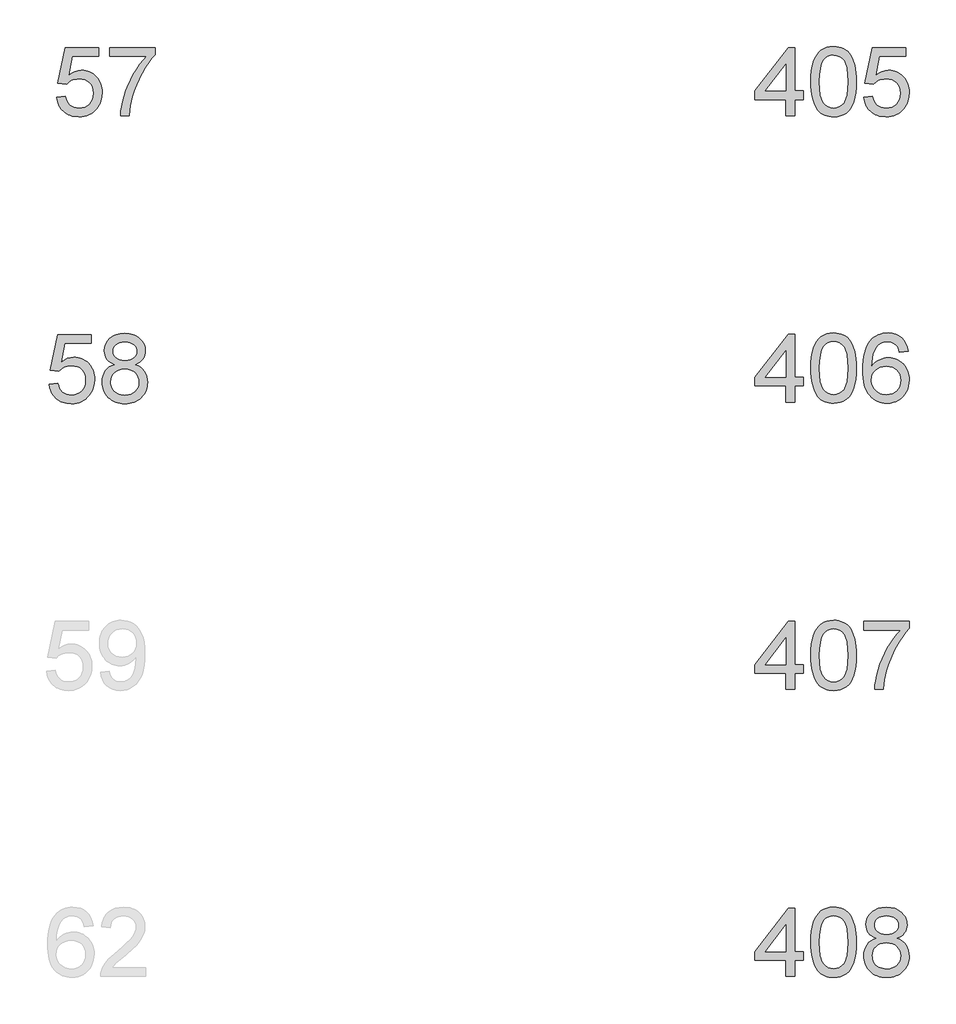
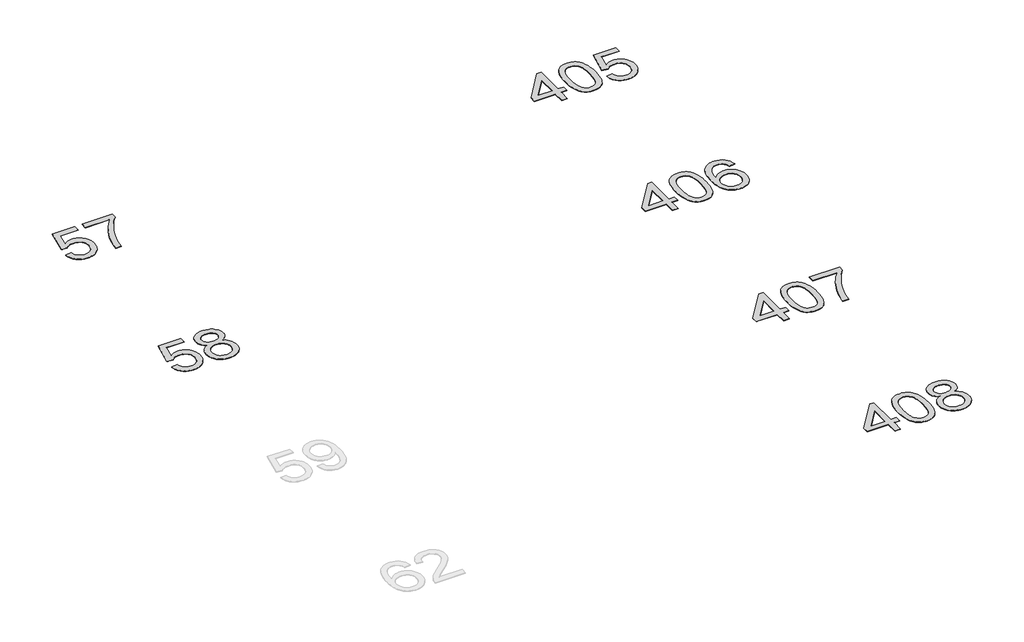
# One storey, part 4 of 19: 6 proxies.
"""IFC4 building model written with IfcOpenShell, lengths in millimetres."""

from ifc_helpers import new_model, si_unit, origin, origin_with_axes, place, context, project, spatial, polyline, outline, extrude, element, save

model = new_model("IFC4")

# Units and contexts
model_context = context("Model", 3, world=origin())
ifc_project = project(units=[si_unit("LENGTHUNIT", "METRE", prefix="MILLI")], contexts=[model_context])

# Site, building, storey
site = spatial("IfcSite", under=ifc_project)
building = spatial("IfcBuilding", under=site)
storey = spatial("IfcBuildingStorey", under=building, Name="Marelli - Linha ACTIVE - Planta Baixa", Elevation=0.0)

# Proxies
placement = place(None, origin())
element("IfcBuildingElementProxy", 1, Name="1200mm Arial", ObjectType="1200mm Arial", at=placement, inside=storey, context=model_context, shape_type="SweptSolid", body=[
    extrude(outline(polyline([(-25134.0424838, -128668.6139517), (-24983.3580186, -128649.7783935), (-24972.1008295, -128698.2192552), (-24955.6932926, -128740.2405761), (-24934.1354076, -128775.8423562), (-24907.4271748, -128805.0245955), (-24875.6237763, -128827.7505057), (-24838.7803945, -128843.9832988), (-24796.8970293, -128853.7229746), (-24749.9736809, -128856.9695332), (-24692.5840896, -128852.4537817), (-24641.9635271, -128838.9065272), (-24598.1119932, -128816.3277698), (-24561.0294881, -128784.7175093), (-24531.5437462, -128745.6392444), (-24510.482502, -128700.6564734), (-24497.8457555, -128649.7691965), (-24493.6335066, -128592.9774135), (-24497.579041, -128539.3034304), (-24509.4156442, -128491.5891356), (-24529.1433162, -128449.8345291), (-24556.762057, -128414.039611), (-24592.3638371, -128385.3264213), (-24636.040627, -128364.817), (-24687.7924266, -128352.5113473), (-24747.6192361, -128348.4094631), (-24785.9065547, -128350.0465379), (-24820.7173885, -128354.9577626), (-24852.0517375, -128363.143137), (-24879.9096016, -128374.6026611), (-24927.1824379, -128404.6954083), (-24964.5224604, -128442.5872538), (-25115.2069257, -128423.7516957), (-24983.3580186, -127802.1782766), (-24399.4557159, -127802.1782766), (-24399.4557159, -127952.8627418), (-24861.5155018, -127952.8627418), (-24925.9684273, -128284.8394543), (-24872.7910849, -128246.7268796), (-24818.3261556, -128219.503612), (-24762.5736392, -128203.1696514), (-24705.5335358, -128197.7249978), (-24668.094645, -128199.4126565), (-24632.1502749, -128204.4756325), (-24597.7004253, -128212.9139257), (-24564.7450963, -128224.7275363), (-24533.2842879, -128239.9164642), (-24503.3180001, -128258.4807093), (-24474.846233, -128280.4202718), (-24447.8689864, -128305.7351516), (-24423.2783743, -128333.7033803), (-24401.9665105, -128363.6029895), (-24383.9333949, -128395.4339791), (-24369.1790276, -128429.1963492), (-24357.7034087, -128464.8900998), (-24349.506538, -128502.5152308), (-24344.5884155, -128542.0717424), (-24342.9490414, -128583.5596344), (-24348.8535474, -128661.6241938), (-24356.2341799, -128698.6147284), (-24366.5670655, -128734.2440996), (-24379.852204, -128768.5123075), (-24396.0895956, -128801.4193519), (-24415.2792402, -128832.965233), (-24437.4211378, -128863.1499507), (-24467.4219145, -128897.0180869), (-24500.0346533, -128926.3704716), (-24535.2593544, -128951.2071048), (-24573.0960176, -128971.5279865), (-24613.5446429, -128987.3331167), (-24656.6052305, -128998.6224954), (-24702.2777802, -129005.3961227), (-24750.562292, -129007.6539984), (-24828.3233488, -129001.8506599), (-24864.3826821, -128994.5964869), (-24898.5612187, -128984.4406445), (-24930.8589586, -128971.383133), (-24961.2759018, -128955.4239522), (-24989.8120483, -128936.5631021), (-25016.4673982, -128914.8005828), (-25040.8050914, -128890.6422321), (-25062.3882682, -128864.5938875), (-25081.2169286, -128836.6555493), (-25097.2910725, -128806.8272173), (-25110.6107, -128775.1088915), (-25121.175811, -128741.500572), (-25134.0424838, -128668.6139517)])), origin_with_axes(), (0.0, 0.0, 1.0), 10.0),
    extrude(outline(polyline([(-24211.1001343, -127952.8627418), (-24211.1001343, -127802.1782766), (-23420.0066919, -127802.1782766), (-23420.0066919, -127924.0207934), (-23476.5225634, -127990.5246611), (-23532.7625234, -128066.7222194), (-23588.7265719, -128152.6134682), (-23644.414709, -128248.1984076), (-23696.8103021, -128349.3383651), (-23742.8967191, -128451.8946683), (-23782.6739598, -128555.8673172), (-23816.1420243, -128661.2563118), (-23836.0812284, -128737.7941609), (-23852.047307, -128817.9004653), (-23864.0402601, -128901.5752251), (-23872.0600876, -128988.8184403), (-24022.7445528, -128988.8184403), (-24018.0080721, -128914.8189769), (-24006.4473804, -128833.4986619), (-23988.0624777, -128744.8574952), (-23962.853364, -128648.8954767), (-23931.1143448, -128550.1651463), (-23893.1397259, -128453.2190435), (-23848.9295071, -128358.0571684), (-23798.4836885, -128264.679521), (-23744.0739414, -128175.8268221), (-23687.9719372, -128094.2397926), (-23630.1776757, -128019.9184325), (-23570.6911571, -127952.8627418), (-24211.1001343, -127952.8627418)])), origin_with_axes(), (0.0, 0.0, 1.0), 10.0),
])
element("IfcBuildingElementProxy", 2, Name="1200mm Arial", ObjectType="1200mm Arial", at=placement, inside=storey, context=model_context, shape_type="SweptSolid", body=[
    extrude(outline(polyline([(-25265.8913909, -133668.6139517), (-25115.2069257, -133649.7783935), (-25103.9497366, -133698.2192552), (-25087.5421996, -133740.2405761), (-25065.9843147, -133775.8423562), (-25039.2760819, -133805.0245955), (-25007.4726834, -133827.7505057), (-24970.6293016, -133843.9832988), (-24928.7459364, -133853.7229746), (-24881.8225879, -133856.9695332), (-24824.4329967, -133852.4537817), (-24773.8124341, -133838.9065272), (-24729.9609003, -133816.3277698), (-24692.8783952, -133784.7175093), (-24663.3926533, -133745.6392444), (-24642.3314091, -133700.6564734), (-24629.6946625, -133649.7691965), (-24625.4824137, -133592.9774135), (-24629.4279481, -133539.3034304), (-24641.2645513, -133491.5891356), (-24660.9922233, -133449.8345291), (-24688.6109641, -133414.039611), (-24724.2127441, -133385.3264213), (-24767.889534, -133364.817), (-24819.6413337, -133352.5113473), (-24879.4681432, -133348.4094631), (-24917.7554618, -133350.0465379), (-24952.5662956, -133354.9577626), (-24983.9006445, -133363.143137), (-25011.7585086, -133374.6026611), (-25059.031345, -133404.6954083), (-25096.3713675, -133442.5872538), (-25247.0558327, -133423.7516957), (-25115.2069257, -132802.1782766), (-24531.3046229, -132802.1782766), (-24531.3046229, -132952.8627418), (-24993.3644089, -132952.8627418), (-25057.8173344, -133284.8394543), (-25004.639992, -133246.7268796), (-24950.1750626, -133219.503612), (-24894.4225463, -133203.1696514), (-24837.3824429, -133197.7249978), (-24799.9435521, -133199.4126565), (-24763.9991819, -133204.4756325), (-24729.5493323, -133212.9139257), (-24696.5940034, -133224.7275363), (-24665.133195, -133239.9164642), (-24635.1669072, -133258.4807093), (-24606.69514, -133280.4202718), (-24579.7178935, -133305.7351516), (-24555.1272814, -133333.7033803), (-24533.8154175, -133363.6029895), (-24515.782302, -133395.4339791), (-24501.0279347, -133429.1963492), (-24489.5523157, -133464.8900998), (-24481.355445, -133502.5152308), (-24476.4373226, -133542.0717424), (-24474.7979485, -133583.5596344), (-24480.7024545, -133661.6241938), (-24488.083087, -133698.6147284), (-24498.4159726, -133734.2440996), (-24511.7011111, -133768.5123075), (-24527.9385027, -133801.4193519), (-24547.1281472, -133832.965233), (-24569.2700448, -133863.1499507), (-24599.2708215, -133897.0180869), (-24631.8835604, -133926.3704716), (-24667.1082614, -133951.2071048), (-24704.9449246, -133971.5279865), (-24745.39355, -133987.3331167), (-24788.4541376, -133998.6224954), (-24834.1266873, -134005.3961227), (-24882.4111991, -134007.6539984), (-24960.1722559, -134001.8506599), (-24996.2315892, -133994.5964869), (-25030.4101258, -133984.4406445), (-25062.7078657, -133971.383133), (-25093.1248089, -133955.4239522), (-25121.6609554, -133936.5631021), (-25148.3163052, -133914.8005828), (-25172.6539985, -133890.6422321), (-25194.2371753, -133864.5938875), (-25213.0658356, -133836.6555493), (-25229.1399796, -133806.8272173), (-25242.4596071, -133775.1088915), (-25253.0247181, -133741.500572), (-25265.8913909, -133668.6139517)])), origin_with_axes(), (0.0, 0.0, 1.0), 10.0),
    extrude(outline(polyline([(-24123.3970667, -133324.8650154), (-24166.7427628, -133306.7652212), (-24204.0735882, -133285.1337599), (-24235.3895431, -133259.9706314), (-24260.6906273, -133231.2758358), (-24280.1975701, -133199.3252845), (-24294.1311006, -133164.3948891), (-24302.491219, -133126.4846495), (-24305.2779251, -133085.5945657), (-24299.2078722, -133024.1398784), (-24291.620306, -132995.3301197), (-24280.9977134, -132967.7987509), (-24267.3400943, -132941.545772), (-24250.6474488, -132916.571183), (-24208.1570784, -132870.4571749), (-24182.8697897, -132850.0397242), (-24155.5683471, -132832.3446002), (-24126.2527507, -132817.371803), (-24094.9230002, -132805.1213326), (-24026.2210376, -132788.787372), (-23949.4624594, -132783.3427185), (-23872.3359991, -132788.9161307), (-23803.1190017, -132805.6363674), (-23771.4765516, -132818.1765449), (-23741.8114672, -132833.5034285), (-23714.1237485, -132851.6170183), (-23688.4133956, -132872.5173141), (-23645.1504729, -132919.5326331), (-23628.1543248, -132944.8613085), (-23614.2483853, -132971.4039944), (-23603.4326547, -132999.1606909), (-23595.7071328, -133028.1313981), (-23591.0718197, -133058.3161158), (-23589.5267153, -133089.7148441), (-23592.2766332, -133129.160991), (-23600.5263869, -133165.9767817), (-23614.2759765, -133200.1622161), (-23633.5254019, -133231.7172942), (-23658.3666336, -133260.2189518), (-23688.8916422, -133285.2441245), (-23725.1004275, -133306.7928124), (-23766.9929897, -133324.8650154), (-23717.4668761, -133345.9354566), (-23674.2499388, -133372.6528865), (-23637.3421776, -133405.0173051), (-23606.7435926, -133443.0287122), (-23582.7300954, -133485.8409794), (-23565.5775974, -133532.607978), (-23555.2860986, -133583.3297081), (-23551.855599, -133638.0061697), (-23553.5570532, -133676.3670647), (-23558.6614159, -133713.1644613), (-23567.168687, -133748.3983594), (-23579.0788666, -133782.068759), (-23594.3919547, -133814.1756601), (-23613.1079512, -133844.7190628), (-23635.2268561, -133873.6989669), (-23660.7486695, -133901.1153726), (-23689.047992, -133926.085363), (-23719.4994242, -133947.7260214), (-23752.102966, -133966.0373477), (-23786.8586175, -133981.019342), (-23823.7663787, -133992.6720042), (-23862.8262495, -134000.9953343), (-23904.03823, -134005.9893324), (-23947.4023202, -134007.6539984), (-23990.7664104, -134005.9824346), (-24031.9783909, -134000.9677432), (-24071.0382617, -133992.6099241), (-24107.9460229, -133980.9089774), (-24142.7016744, -133965.864903), (-24175.3052162, -133947.4777011), (-24205.7566483, -133925.7473715), (-24234.0559708, -133900.6739142), (-24259.5777842, -133873.1034579), (-24281.6966892, -133843.8821312), (-24300.4126857, -133813.009934), (-24315.7257738, -133780.4868664), (-24327.6359533, -133746.3129283), (-24336.1432245, -133710.4881198), (-24341.2475872, -133673.0124408), (-24342.9490414, -133633.8858913), (-24339.380586, -133576.7170293), (-24328.67522, -133524.4042096), (-24310.8329432, -133476.9474322), (-24285.8537557, -133434.3466971), (-24254.2894806, -133397.3745566), (-24216.6919406, -133366.8035628), (-24173.061136, -133342.6337157), (-24123.3970667, -133324.8650154)]), holes=[polyline([(-24154.5934599, -133090.0091497), (-24151.2549308, -133124.553269), (-24141.2393434, -133155.7864504), (-24124.5466979, -133183.7086938), (-24101.1769942, -133208.3199993), (-24071.4245378, -133228.4063562), (-24035.5836344, -133242.753754), (-23993.654284, -133251.3621927), (-23945.6364866, -133254.2316723), (-23898.8051086, -133251.3805868), (-23857.7862662, -133242.8273304), (-23822.5799592, -133228.5719031), (-23793.1861878, -133208.6143049), (-23770.0096221, -133184.5180342), (-23753.4549323, -133157.8465896), (-23743.5221185, -133128.5999709), (-23740.2111805, -133096.7781784), (-23743.6324831, -133063.714784), (-23753.8963907, -133033.3921106), (-23771.0029035, -133005.810158), (-23794.9520214, -132980.9689263), (-23825.0079804, -132960.4319139), (-23860.4350165, -132945.7626193), (-23901.2331298, -132936.9610426), (-23947.4023202, -132934.0271837), (-23993.9301955, -132936.8966633), (-24034.9214468, -132945.5051019), (-24070.3760741, -132959.8524998), (-24100.2940774, -132979.9388567), (-24124.0500572, -133004.0351274), (-24141.0186142, -133030.4122664), (-24151.1997485, -133059.0702739), (-24154.5934599, -133090.0091497)]), polyline([(-24192.2645762, -133628.5883906), (-24190.6918806, -133657.6418712), (-24185.9737941, -133686.2354992), (-24167.1014477, -133742.0431979), (-24152.1010593, -133767.9328933), (-24132.2630228, -133790.7139859), (-24107.5873379, -133810.3864756), (-24078.0740049, -133826.9503624), (-24045.8843303, -133840.0837496), (-24013.1796209, -133849.4647405), (-23979.9598768, -133855.093335), (-23946.2250978, -133856.9695332), (-23891.7417743, -133853.0239988), (-23843.6595975, -133841.1873956), (-23801.9785675, -133821.4597236), (-23766.6986841, -133793.8409828), (-23738.6292879, -133760.133795), (-23718.5797192, -133722.140782), (-23706.5499779, -133679.8619437), (-23702.5400642, -133633.2972801), (-23706.6787366, -133585.9876555), (-23719.094754, -133542.9454621), (-23739.7881162, -133504.1706998), (-23768.7588233, -133469.6633687), (-23804.9951998, -133441.336455), (-23847.4855703, -133421.1029453), (-23896.2299347, -133408.9628395), (-23951.2282929, -133404.9161375), (-24004.9114731, -133408.9076572), (-24052.3590534, -133420.8822161), (-24093.5710339, -133440.8398144), (-24128.5474146, -133468.7804519), (-24156.4236728, -133502.7175659), (-24176.3352858, -133540.6645937), (-24188.2822536, -133582.6215353), (-24192.2645762, -133628.5883906)])]), origin_with_axes(), (0.0, 0.0, 1.0), 10.0),
])
element("IfcBuildingElementProxy", 3, Name="1200mm Arial", ObjectType="1200mm Arial", at=placement, inside=storey, context=model_context, shape_type="SweptSolid", body=[
    extrude(outline(polyline([(-12417.4335651, -128988.8184403), (-12417.4335651, -128706.285068), (-12963.6647515, -128706.285068), (-12963.6647515, -128555.6006027), (-12379.7624488, -127802.1782766), (-12266.7490998, -127802.1782766), (-12266.7490998, -128555.6006027), (-12116.0646346, -128555.6006027), (-12116.0646346, -128706.285068), (-12266.7490998, -128706.285068), (-12266.7490998, -128988.8184403), (-12417.4335651, -128988.8184403)]), holes=[polyline([(-12417.4335651, -128555.6006027), (-12417.4335651, -128090.0091497), (-12778.2522259, -128555.6006027), (-12417.4335651, -128555.6006027)])]), origin_with_axes(), (0.0, 0.0, 1.0), 10.0),
    extrude(outline(polyline([(-11984.2157275, -128395.792664), (-11981.4474155, -128294.4319773), (-11973.1424795, -128202.8385576), (-11959.3009194, -128121.0124048), (-11939.9227353, -128048.953519), (-11915.0907006, -127986.073289), (-11884.8875888, -127931.7831035), (-11849.3133999, -127886.0829627), (-11808.3681338, -127848.9728664), (-11761.9138349, -127820.2596767), (-11709.8125473, -127799.7502555), (-11652.0642711, -127787.4446027), (-11588.6690063, -127783.3427185), (-11541.028288, -127785.7707396), (-11495.8155907, -127793.0548031), (-11453.0309147, -127805.194909), (-11412.6742598, -127822.1910572), (-11375.7205134, -127843.7581391), (-11343.1445627, -127869.6110463), (-11314.9464078, -127899.7497788), (-11291.1260486, -127934.1743365), (-11270.4878687, -127972.7467637), (-11251.8362515, -128015.3291046), (-11220.4927056, -128112.5235278), (-11208.5181466, -128169.6831928), (-11199.9648902, -128235.9479371), (-11194.8329364, -128311.3177609), (-11193.1222851, -128395.792664), (-11195.863006, -128496.5095573), (-11204.0851686, -128587.6431245), (-11217.7887729, -128669.1933658), (-11236.9738189, -128741.1602811), (-11261.6127156, -128804.0681023), (-11291.6778716, -128858.4410612), (-11327.1692871, -128904.2791578), (-11368.086962, -128941.5823921), (-11414.5964433, -128970.4887199), (-11466.8632777, -128991.1360968), (-11524.8874654, -129003.524523), (-11588.6690063, -129007.6539984), (-11631.3433178, -129005.8605737), (-11671.6631844, -129000.4802995), (-11709.6286063, -128991.5131759), (-11745.2395835, -128978.9592028), (-11778.4961158, -128962.8183803), (-11809.3982034, -128943.0907083), (-11837.9458463, -128919.7761868), (-11864.1390443, -128892.8748159), (-11892.2820169, -128850.2786794), (-11916.6725932, -128802.0999336), (-11937.3107732, -128748.3385785), (-11954.1965567, -128688.9946142), (-11967.329944, -128624.0680406), (-11976.7109348, -128553.5588577), (-11982.3395294, -128477.4670655), (-11984.2157275, -128395.792664)]), holes=[polyline([(-11833.5312623, -128395.4983584), (-11829.1166784, -128526.4919399), (-11815.8729265, -128632.5247279), (-11805.9401127, -128676.1808245), (-11793.8000068, -128713.5967226), (-11779.452609, -128744.7724225), (-11762.8979192, -128769.7079239), (-11725.5211085, -128807.884878), (-11684.0240195, -128835.1541309), (-11638.4066521, -128851.5156826), (-11588.6690063, -128856.9695332), (-11538.9313606, -128851.4972885), (-11493.3139932, -128835.0805545), (-11451.8169041, -128807.7193311), (-11414.4400934, -128769.4136183), (-11397.8854036, -128744.418336), (-11383.5380058, -128713.2104465), (-11371.3979, -128675.7899498), (-11361.4650861, -128632.1568459), (-11348.2213343, -128526.2528166), (-11343.8067503, -128395.4983584), (-11348.0741815, -128267.9720648), (-11360.8764749, -128163.8062779), (-11370.478195, -128120.4835744), (-11382.2136306, -128083.0009976), (-11396.0827819, -128051.3585475), (-11412.0856486, -128025.5562241), (-11448.83706, -127985.5122689), (-11490.8123956, -127956.9094438), (-11538.0116556, -127939.7477487), (-11590.4348399, -127934.0271837), (-11639.9149683, -127939.067167), (-11684.7597835, -127954.187117), (-11724.9692855, -127979.3870337), (-11760.5434745, -128014.666917), (-11777.6499872, -128043.2145599), (-11792.4756317, -128077.2068562), (-11805.0204077, -128116.6438061), (-11815.2843154, -128161.5254095), (-11828.9695256, -128267.6225769), (-11833.5312623, -128395.4983584)])]), origin_with_axes(), (0.0, 0.0, 1.0), 10.0),
    extrude(outline(polyline([(-11061.273378, -128668.6139517), (-10910.5889128, -128649.7783935), (-10899.3317238, -128698.2192552), (-10882.9241868, -128740.2405761), (-10861.3663019, -128775.8423562), (-10834.658069, -128805.0245955), (-10802.8546705, -128827.7505057), (-10766.0112887, -128843.9832988), (-10724.1279236, -128853.7229746), (-10677.2045751, -128856.9695332), (-10619.8149838, -128852.4537817), (-10569.1944213, -128838.9065272), (-10525.3428875, -128816.3277698), (-10488.2603824, -128784.7175093), (-10458.7746404, -128745.6392444), (-10437.7133962, -128700.6564734), (-10425.0766497, -128649.7691965), (-10420.8644008, -128592.9774135), (-10424.8099352, -128539.3034304), (-10436.6465384, -128491.5891356), (-10456.3742104, -128449.8345291), (-10483.9929512, -128414.039611), (-10519.5947313, -128385.3264213), (-10563.2715212, -128364.817), (-10615.0233208, -128352.5113473), (-10674.8501303, -128348.4094631), (-10713.137449, -128350.0465379), (-10747.9482827, -128354.9577626), (-10779.2826317, -128363.143137), (-10807.1404958, -128374.6026611), (-10854.4133322, -128404.6954083), (-10891.7533547, -128442.5872538), (-11042.4378199, -128423.7516957), (-10910.5889128, -127802.1782766), (-10326.6866101, -127802.1782766), (-10326.6866101, -127952.8627418), (-10788.746396, -127952.8627418), (-10853.1993216, -128284.8394543), (-10800.0219792, -128246.7268796), (-10745.5570498, -128219.503612), (-10689.8045334, -128203.1696514), (-10632.7644301, -128197.7249978), (-10595.3255393, -128199.4126565), (-10559.3811691, -128204.4756325), (-10524.9313195, -128212.9139257), (-10491.9759905, -128224.7275363), (-10460.5151821, -128239.9164642), (-10430.5488944, -128258.4807093), (-10402.0771272, -128280.4202718), (-10375.0998806, -128305.7351516), (-10350.5092685, -128333.7033803), (-10329.1974047, -128363.6029895), (-10311.1642891, -128395.4339791), (-10296.4099219, -128429.1963492), (-10284.9343029, -128464.8900998), (-10276.7374322, -128502.5152308), (-10271.8193098, -128542.0717424), (-10270.1799356, -128583.5596344), (-10276.0844416, -128661.6241938), (-10283.4650742, -128698.6147284), (-10293.7979597, -128734.2440996), (-10307.0830983, -128768.5123075), (-10323.3204898, -128801.4193519), (-10342.5101344, -128832.965233), (-10364.652032, -128863.1499507), (-10394.6528087, -128897.0180869), (-10427.2655476, -128926.3704716), (-10462.4902486, -128951.2071048), (-10500.3269118, -128971.5279865), (-10540.7755372, -128987.3331167), (-10583.8361247, -128998.6224954), (-10629.5086744, -129005.3961227), (-10677.7931863, -129007.6539984), (-10755.554243, -129001.8506599), (-10791.6135763, -128994.5964869), (-10825.7921129, -128984.4406445), (-10858.0898528, -128971.383133), (-10888.5067961, -128955.4239522), (-10917.0429426, -128936.5631021), (-10943.6982924, -128914.8005828), (-10968.0359856, -128890.6422321), (-10989.6191624, -128864.5938875), (-11008.4478228, -128836.6555493), (-11024.5219667, -128806.8272173), (-11037.8415942, -128775.1088915), (-11048.4067053, -128741.500572), (-11061.273378, -128668.6139517)])), origin_with_axes(), (0.0, 0.0, 1.0), 10.0),
])
element("IfcBuildingElementProxy", 4, Name="1200mm Arial", ObjectType="1200mm Arial", at=placement, inside=storey, context=model_context, shape_type="SweptSolid", body=[
    extrude(outline(polyline([(-12417.4335651, -133980.5663201), (-12417.4335651, -133698.0329478), (-12963.6647515, -133698.0329478), (-12963.6647515, -133547.3484825), (-12379.7624488, -132793.9261564), (-12266.7490998, -132793.9261564), (-12266.7490998, -133547.3484825), (-12116.0646346, -133547.3484825), (-12116.0646346, -133698.0329478), (-12266.7490998, -133698.0329478), (-12266.7490998, -133980.5663201), (-12417.4335651, -133980.5663201)]), holes=[polyline([(-12417.4335651, -133547.3484825), (-12417.4335651, -133081.7570295), (-12778.2522259, -133547.3484825), (-12417.4335651, -133547.3484825)])]), origin_with_axes(), (0.0, 0.0, 1.0), 10.0),
    extrude(outline(polyline([(-11984.2157275, -133387.5405438), (-11981.4474155, -133286.1798571), (-11973.1424795, -133194.5864374), (-11959.3009194, -133112.7602846), (-11939.9227353, -133040.7013988), (-11915.0907006, -132977.8211688), (-11884.8875888, -132923.5309833), (-11849.3133999, -132877.8308425), (-11808.3681338, -132840.7207462), (-11761.9138349, -132812.0075565), (-11709.8125473, -132791.4981353), (-11652.0642711, -132779.1924825), (-11588.6690063, -132775.0905983), (-11541.028288, -132777.5186194), (-11495.8155907, -132784.8026829), (-11453.0309147, -132796.9427888), (-11412.6742598, -132813.938937), (-11375.7205134, -132835.5060189), (-11343.1445627, -132861.3589261), (-11314.9464078, -132891.4976586), (-11291.1260486, -132925.9222163), (-11270.4878687, -132964.4946435), (-11251.8362515, -133007.0769844), (-11220.4927056, -133104.2714076), (-11208.5181466, -133161.4310726), (-11199.9648902, -133227.6958169), (-11194.8329364, -133303.0656407), (-11193.1222851, -133387.5405438), (-11195.863006, -133488.2574371), (-11204.0851686, -133579.3910043), (-11217.7887729, -133660.9412456), (-11236.9738189, -133732.9081609), (-11261.6127156, -133795.8159821), (-11291.6778716, -133850.188941), (-11327.1692871, -133896.0270376), (-11368.086962, -133933.3302719), (-11414.5964433, -133962.2365997), (-11466.8632777, -133982.8839766), (-11524.8874654, -133995.2724028), (-11588.6690063, -133999.4018782), (-11631.3433178, -133997.6084535), (-11671.6631844, -133992.2281793), (-11709.6286063, -133983.2610557), (-11745.2395835, -133970.7070826), (-11778.4961158, -133954.5662601), (-11809.3982034, -133934.8385881), (-11837.9458463, -133911.5240666), (-11864.1390443, -133884.6226957), (-11892.2820169, -133842.0265592), (-11916.6725932, -133793.8478134), (-11937.3107732, -133740.0864583), (-11954.1965567, -133680.742494), (-11967.329944, -133615.8159204), (-11976.7109348, -133545.3067375), (-11982.3395294, -133469.2149453), (-11984.2157275, -133387.5405438)]), holes=[polyline([(-11833.5312623, -133387.2462382), (-11829.1166784, -133518.2398197), (-11815.8729265, -133624.2726077), (-11805.9401127, -133667.9287043), (-11793.8000068, -133705.3446024), (-11779.452609, -133736.5203023), (-11762.8979192, -133761.4558037), (-11725.5211085, -133799.6327578), (-11684.0240195, -133826.9020107), (-11638.4066521, -133843.2635624), (-11588.6690063, -133848.717413), (-11538.9313606, -133843.2451683), (-11493.3139932, -133826.8284343), (-11451.8169041, -133799.4672109), (-11414.4400934, -133761.1614981), (-11397.8854036, -133736.1662158), (-11383.5380058, -133704.9583263), (-11371.3979, -133667.5378296), (-11361.4650861, -133623.9047257), (-11348.2213343, -133518.0006964), (-11343.8067503, -133387.2462382), (-11348.0741815, -133259.7199446), (-11360.8764749, -133155.5541577), (-11370.478195, -133112.2314542), (-11382.2136306, -133074.7488774), (-11396.0827819, -133043.1064273), (-11412.0856486, -133017.3041039), (-11448.83706, -132977.2601487), (-11490.8123956, -132948.6573236), (-11538.0116556, -132931.4956285), (-11590.4348399, -132925.7750635), (-11639.9149683, -132930.8150468), (-11684.7597835, -132945.9349968), (-11724.9692855, -132971.1349135), (-11760.5434745, -133006.4147968), (-11777.6499872, -133034.9624397), (-11792.4756317, -133068.954736), (-11805.0204077, -133108.3916859), (-11815.2843154, -133153.2732893), (-11828.9695256, -133259.3704567), (-11833.5312623, -133387.2462382)])]), origin_with_axes(), (0.0, 0.0, 1.0), 10.0),
    extrude(outline(polyline([(-10289.0154938, -133095.2950869), (-10439.699959, -133114.130645), (-10450.773207, -133073.8291725), (-10463.9801707, -133039.4506), (-10479.3208499, -133010.9949277), (-10496.7952446, -132988.4621555), (-10529.1872543, -132961.0365527), (-10565.1477193, -132941.4468365), (-10604.6766397, -132929.6930067), (-10647.7740155, -132925.7750635), (-10683.3114162, -132928.0559319), (-10717.8187473, -132934.898537), (-10751.2960089, -132946.3028788), (-10783.7432009, -132962.2689574), (-10813.3485044, -132988.379382), (-10840.3602399, -133019.9160661), (-10864.7784074, -133056.8790095), (-10886.6030067, -133099.2682124), (-10904.6752097, -133149.8795779), (-10917.8361881, -133211.5090092), (-10926.0859419, -133284.1565062), (-10929.424471, -133367.8220689), (-10900.7020842, -133329.9578145), (-10868.9814592, -133297.2990904), (-10834.2625959, -133269.8458965), (-10796.5454943, -133247.5982329), (-10756.84183, -133230.4089467), (-10716.1632784, -133218.1308851), (-10674.5098395, -133210.7640481), (-10631.8815133, -133208.3084358), (-10594.9829492, -133209.9868974), (-10559.4823366, -133215.0222822), (-10525.3796757, -133223.4145902), (-10492.6749663, -133235.1638214), (-10461.3682085, -133250.2699759), (-10431.4594023, -133268.7330535), (-10402.9485477, -133290.5530543), (-10375.8356446, -133315.7299784), (-10351.0725878, -133343.5648498), (-10329.6112719, -133373.3586929), (-10311.4516969, -133405.1115076), (-10296.5938629, -133438.823294), (-10285.0377697, -133474.4940519), (-10276.7834174, -133512.1237815), (-10271.8308061, -133551.7124827), (-10270.1799356, -133593.2601555), (-10273.2885385, -133648.1941345), (-10282.6143471, -133701.1599447), (-10298.1573613, -133752.1575863), (-10319.9175814, -133801.1870592), (-10347.1224549, -133846.4181505), (-10378.9994298, -133886.0206473), (-10415.548506, -133919.9945496), (-10456.7696836, -133948.3398573), (-10501.7800457, -133970.6794914), (-10549.6966755, -133986.636373), (-10600.5195732, -133996.2105019), (-10654.2487386, -133999.4018782), (-10700.2500828, -133997.2865568), (-10744.0763248, -133990.9405923), (-10785.7274644, -133980.363985), (-10825.2035017, -133965.5567347), (-10862.5044368, -133946.5188414), (-10897.6302695, -133923.2503052), (-10930.581, -133895.7511261), (-10961.3566282, -133864.021304), (-10989.1892003, -133827.4354396), (-11013.3107629, -133785.3681334), (-11033.7213159, -133737.8193856), (-11050.4208592, -133684.7891959), (-11063.4093929, -133626.2775646), (-11072.6869169, -133562.2844916), (-11078.2534314, -133492.8099768), (-11080.1089362, -133417.8540202), (-11078.048797, -133333.9263416), (-11071.8683795, -133255.9307601), (-11061.5676836, -133183.8672757), (-11047.1467094, -133117.7358886), (-11028.6054569, -133057.5365986), (-11005.943926, -133003.2694058), (-10979.1621167, -132954.9343101), (-10948.2600291, -132912.5313117), (-10918.2454568, -132880.3186445), (-10885.738484, -132852.4009996), (-10850.7391107, -132828.7783769), (-10813.2473369, -132809.4507766), (-10773.2631625, -132794.4181986), (-10730.7865877, -132783.6806429), (-10685.8176123, -132777.2381094), (-10638.3562364, -132775.0905983), (-10568.955298, -132780.4064931), (-10506.1394473, -132796.3541776), (-10449.9086844, -132822.9336517), (-10400.2630091, -132860.1449156), (-10358.5451909, -132906.7371702), (-10326.0979989, -132961.459617), (-10302.9214332, -133024.3122559), (-10289.0154938, -133095.2950869)]), holes=[polyline([(-10929.424471, -133590.9057108), (-10927.2447701, -133624.6680809), (-10920.7056677, -133657.6762929), (-10909.8071636, -133689.9303468), (-10894.5492578, -133721.4302427), (-10875.6769115, -133750.6952554), (-10853.9350856, -133776.2446599), (-10829.3237801, -133798.0784564), (-10801.842995, -133816.1966446), (-10771.6674744, -133830.4244808), (-10738.9719621, -133840.5872209), (-10703.7564581, -133846.684865), (-10666.0209624, -133848.717413), (-10613.6437634, -133844.5051642), (-10566.5824591, -133831.8684176), (-10524.8370497, -133810.8071734), (-10488.4075352, -133781.3214315), (-10458.8574139, -133744.6068084), (-10437.7501844, -133701.8589205), (-10425.0858467, -133653.077768), (-10420.8644008, -133598.2633507), (-10425.0306644, -133545.591846), (-10437.5294552, -133498.8248474), (-10458.3607732, -133457.9623548), (-10487.5246184, -133423.0043682), (-10524.0644975, -133394.9993513), (-10567.0239175, -133374.9957678), (-10616.4028783, -133362.9936177), (-10672.2013799, -133358.992901), (-10723.8796032, -133362.9936177), (-10771.4927304, -133374.9957678), (-10815.0407616, -133394.9993513), (-10854.5236968, -133423.0043682), (-10887.2927855, -133457.5025023), (-10910.6992774, -133496.9854374), (-10924.7431726, -133541.4531736), (-10929.424471, -133590.9057108)])]), origin_with_axes(), (0.0, 0.0, 1.0), 10.0),
])
element("IfcBuildingElementProxy", 5, Name="1200mm Arial", ObjectType="1200mm Arial", at=placement, inside=storey, context=model_context, shape_type="SweptSolid", body=[
    extrude(outline(polyline([(-12417.4335651, -138988.8184403), (-12417.4335651, -138706.285068), (-12963.6647515, -138706.285068), (-12963.6647515, -138555.6006027), (-12379.7624488, -137802.1782766), (-12266.7490998, -137802.1782766), (-12266.7490998, -138555.6006027), (-12116.0646346, -138555.6006027), (-12116.0646346, -138706.285068), (-12266.7490998, -138706.285068), (-12266.7490998, -138988.8184403), (-12417.4335651, -138988.8184403)]), holes=[polyline([(-12417.4335651, -138555.6006027), (-12417.4335651, -138090.0091497), (-12778.2522259, -138555.6006027), (-12417.4335651, -138555.6006027)])]), origin_with_axes(), (0.0, 0.0, 1.0), 10.0),
    extrude(outline(polyline([(-11984.2157275, -138395.792664), (-11981.4474155, -138294.4319773), (-11973.1424795, -138202.8385576), (-11959.3009194, -138121.0124048), (-11939.9227353, -138048.953519), (-11915.0907006, -137986.073289), (-11884.8875888, -137931.7831035), (-11849.3133999, -137886.0829627), (-11808.3681338, -137848.9728664), (-11761.9138349, -137820.2596767), (-11709.8125473, -137799.7502555), (-11652.0642711, -137787.4446027), (-11588.6690063, -137783.3427185), (-11541.028288, -137785.7707396), (-11495.8155907, -137793.0548031), (-11453.0309147, -137805.194909), (-11412.6742598, -137822.1910572), (-11375.7205134, -137843.7581391), (-11343.1445627, -137869.6110463), (-11314.9464078, -137899.7497788), (-11291.1260486, -137934.1743365), (-11270.4878687, -137972.7467637), (-11251.8362515, -138015.3291046), (-11220.4927056, -138112.5235278), (-11208.5181466, -138169.6831928), (-11199.9648902, -138235.9479371), (-11194.8329364, -138311.3177609), (-11193.1222851, -138395.792664), (-11195.863006, -138496.5095573), (-11204.0851686, -138587.6431245), (-11217.7887729, -138669.1933658), (-11236.9738189, -138741.1602811), (-11261.6127156, -138804.0681023), (-11291.6778716, -138858.4410612), (-11327.1692871, -138904.2791578), (-11368.086962, -138941.5823921), (-11414.5964433, -138970.4887199), (-11466.8632777, -138991.1360968), (-11524.8874654, -139003.524523), (-11588.6690063, -139007.6539984), (-11631.3433178, -139005.8605737), (-11671.6631844, -139000.4802995), (-11709.6286063, -138991.5131759), (-11745.2395835, -138978.9592028), (-11778.4961158, -138962.8183803), (-11809.3982034, -138943.0907083), (-11837.9458463, -138919.7761868), (-11864.1390443, -138892.8748159), (-11892.2820169, -138850.2786794), (-11916.6725932, -138802.0999336), (-11937.3107732, -138748.3385785), (-11954.1965567, -138688.9946142), (-11967.329944, -138624.0680406), (-11976.7109348, -138553.5588577), (-11982.3395294, -138477.4670655), (-11984.2157275, -138395.792664)]), holes=[polyline([(-11833.5312623, -138395.4983584), (-11829.1166784, -138526.4919399), (-11815.8729265, -138632.5247279), (-11805.9401127, -138676.1808245), (-11793.8000068, -138713.5967226), (-11779.452609, -138744.7724225), (-11762.8979192, -138769.7079239), (-11725.5211085, -138807.884878), (-11684.0240195, -138835.1541309), (-11638.4066521, -138851.5156826), (-11588.6690063, -138856.9695332), (-11538.9313606, -138851.4972885), (-11493.3139932, -138835.0805545), (-11451.8169041, -138807.7193311), (-11414.4400934, -138769.4136183), (-11397.8854036, -138744.418336), (-11383.5380058, -138713.2104465), (-11371.3979, -138675.7899498), (-11361.4650861, -138632.1568459), (-11348.2213343, -138526.2528166), (-11343.8067503, -138395.4983584), (-11348.0741815, -138267.9720648), (-11360.8764749, -138163.8062779), (-11370.478195, -138120.4835744), (-11382.2136306, -138083.0009976), (-11396.0827819, -138051.3585475), (-11412.0856486, -138025.5562241), (-11448.83706, -137985.5122689), (-11490.8123956, -137956.9094438), (-11538.0116556, -137939.7477487), (-11590.4348399, -137934.0271837), (-11639.9149683, -137939.067167), (-11684.7597835, -137954.187117), (-11724.9692855, -137979.3870337), (-11760.5434745, -138014.666917), (-11777.6499872, -138043.2145599), (-11792.4756317, -138077.2068562), (-11805.0204077, -138116.6438061), (-11815.2843154, -138161.5254095), (-11828.9695256, -138267.6225769), (-11833.5312623, -138395.4983584)])]), origin_with_axes(), (0.0, 0.0, 1.0), 10.0),
    extrude(outline(polyline([(-11061.273378, -137952.8627418), (-11061.273378, -137802.1782766), (-10270.1799356, -137802.1782766), (-10270.1799356, -137924.0207934), (-10326.6958071, -137990.5246611), (-10382.9357671, -138066.7222194), (-10438.8998157, -138152.6134682), (-10494.5879527, -138248.1984076), (-10546.9835458, -138349.3383651), (-10593.0699628, -138451.8946683), (-10632.8472035, -138555.8673172), (-10666.315268, -138661.2563118), (-10686.2544722, -138737.7941609), (-10702.2205507, -138817.9004653), (-10714.2135038, -138901.5752251), (-10722.2333313, -138988.8184403), (-10872.9177965, -138988.8184403), (-10868.1813158, -138914.8189769), (-10856.6206241, -138833.4986619), (-10838.2357214, -138744.8574952), (-10813.0266077, -138648.8954767), (-10781.2875886, -138550.1651463), (-10743.3129696, -138453.2190435), (-10699.1027508, -138358.0571684), (-10648.6569323, -138264.679521), (-10594.2471852, -138175.8268221), (-10538.1451809, -138094.2397926), (-10480.3509195, -138019.9184325), (-10420.8644008, -137952.8627418), (-11061.273378, -137952.8627418)])), origin_with_axes(), (0.0, 0.0, 1.0), 10.0),
])
element("IfcBuildingElementProxy", 6, Name="1200mm Arial", ObjectType="1200mm Arial", at=placement, inside=storey, context=model_context, shape_type="SweptSolid", body=[
    extrude(outline(polyline([(-12417.4335651, -143988.8184403), (-12417.4335651, -143706.285068), (-12963.6647515, -143706.285068), (-12963.6647515, -143555.6006027), (-12379.7624488, -142802.1782766), (-12266.7490998, -142802.1782766), (-12266.7490998, -143555.6006027), (-12116.0646346, -143555.6006027), (-12116.0646346, -143706.285068), (-12266.7490998, -143706.285068), (-12266.7490998, -143988.8184403), (-12417.4335651, -143988.8184403)]), holes=[polyline([(-12417.4335651, -143555.6006027), (-12417.4335651, -143090.0091497), (-12778.2522259, -143555.6006027), (-12417.4335651, -143555.6006027)])]), origin_with_axes(), (0.0, 0.0, 1.0), 10.0),
    extrude(outline(polyline([(-11984.2157275, -143395.792664), (-11981.4474155, -143294.4319773), (-11973.1424795, -143202.8385576), (-11959.3009194, -143121.0124048), (-11939.9227353, -143048.953519), (-11915.0907006, -142986.073289), (-11884.8875888, -142931.7831035), (-11849.3133999, -142886.0829627), (-11808.3681338, -142848.9728664), (-11761.9138349, -142820.2596767), (-11709.8125473, -142799.7502555), (-11652.0642711, -142787.4446027), (-11588.6690063, -142783.3427185), (-11541.028288, -142785.7707396), (-11495.8155907, -142793.0548031), (-11453.0309147, -142805.194909), (-11412.6742598, -142822.1910572), (-11375.7205134, -142843.7581391), (-11343.1445627, -142869.6110463), (-11314.9464078, -142899.7497788), (-11291.1260486, -142934.1743365), (-11270.4878687, -142972.7467637), (-11251.8362515, -143015.3291046), (-11220.4927056, -143112.5235278), (-11208.5181466, -143169.6831928), (-11199.9648902, -143235.9479371), (-11194.8329364, -143311.3177609), (-11193.1222851, -143395.792664), (-11195.863006, -143496.5095573), (-11204.0851686, -143587.6431245), (-11217.7887729, -143669.1933658), (-11236.9738189, -143741.1602811), (-11261.6127156, -143804.0681023), (-11291.6778716, -143858.4410612), (-11327.1692871, -143904.2791578), (-11368.086962, -143941.5823921), (-11414.5964433, -143970.4887199), (-11466.8632777, -143991.1360968), (-11524.8874654, -144003.524523), (-11588.6690063, -144007.6539984), (-11631.3433178, -144005.8605737), (-11671.6631844, -144000.4802995), (-11709.6286063, -143991.5131759), (-11745.2395835, -143978.9592028), (-11778.4961158, -143962.8183803), (-11809.3982034, -143943.0907083), (-11837.9458463, -143919.7761868), (-11864.1390443, -143892.8748159), (-11892.2820169, -143850.2786794), (-11916.6725932, -143802.0999336), (-11937.3107732, -143748.3385785), (-11954.1965567, -143688.9946142), (-11967.329944, -143624.0680406), (-11976.7109348, -143553.5588577), (-11982.3395294, -143477.4670655), (-11984.2157275, -143395.792664)]), holes=[polyline([(-11833.5312623, -143395.4983584), (-11829.1166784, -143526.4919399), (-11815.8729265, -143632.5247279), (-11805.9401127, -143676.1808245), (-11793.8000068, -143713.5967226), (-11779.452609, -143744.7724225), (-11762.8979192, -143769.7079239), (-11725.5211085, -143807.884878), (-11684.0240195, -143835.1541309), (-11638.4066521, -143851.5156826), (-11588.6690063, -143856.9695332), (-11538.9313606, -143851.4972885), (-11493.3139932, -143835.0805545), (-11451.8169041, -143807.7193311), (-11414.4400934, -143769.4136183), (-11397.8854036, -143744.418336), (-11383.5380058, -143713.2104465), (-11371.3979, -143675.7899498), (-11361.4650861, -143632.1568459), (-11348.2213343, -143526.2528166), (-11343.8067503, -143395.4983584), (-11348.0741815, -143267.9720648), (-11360.8764749, -143163.8062779), (-11370.478195, -143120.4835744), (-11382.2136306, -143083.0009976), (-11396.0827819, -143051.3585475), (-11412.0856486, -143025.5562241), (-11448.83706, -142985.5122689), (-11490.8123956, -142956.9094438), (-11538.0116556, -142939.7477487), (-11590.4348399, -142934.0271837), (-11639.9149683, -142939.067167), (-11684.7597835, -142954.187117), (-11724.9692855, -142979.3870337), (-11760.5434745, -143014.666917), (-11777.6499872, -143043.2145599), (-11792.4756317, -143077.2068562), (-11805.0204077, -143116.6438061), (-11815.2843154, -143161.5254095), (-11828.9695256, -143267.6225769), (-11833.5312623, -143395.4983584)])]), origin_with_axes(), (0.0, 0.0, 1.0), 10.0),
    extrude(outline(polyline([(-10841.7214033, -143324.8650154), (-10885.0670994, -143306.7652212), (-10922.3979249, -143285.1337599), (-10953.7138797, -143259.9706314), (-10979.0149639, -143231.2758358), (-10998.5219067, -143199.3252845), (-11012.4554373, -143164.3948891), (-11020.8155556, -143126.4846495), (-11023.6022617, -143085.5945657), (-11017.5322088, -143024.1398784), (-11009.9446427, -142995.3301197), (-10999.3220501, -142967.7987509), (-10985.664431, -142941.545772), (-10968.9717855, -142916.571183), (-10926.481415, -142870.4571749), (-10901.1941264, -142850.0397242), (-10873.8926838, -142832.3446002), (-10844.5770873, -142817.371803), (-10813.2473369, -142805.1213326), (-10744.5453743, -142788.787372), (-10667.786796, -142783.3427185), (-10590.6603357, -142788.9161307), (-10521.4433383, -142805.6363674), (-10489.8008882, -142818.1765449), (-10460.1358038, -142833.5034285), (-10432.4480852, -142851.6170183), (-10406.7377322, -142872.5173141), (-10363.4748096, -142919.5326331), (-10346.4786614, -142944.8613085), (-10332.572722, -142971.4039944), (-10321.7569913, -142999.1606909), (-10314.0314694, -143028.1313981), (-10309.3961563, -143058.3161158), (-10307.8510519, -143089.7148441), (-10310.6009698, -143129.160991), (-10318.8507236, -143165.9767817), (-10332.6003131, -143200.1622161), (-10351.8497385, -143231.7172942), (-10376.6909703, -143260.2189518), (-10407.2159788, -143285.2441245), (-10443.4247642, -143306.7928124), (-10485.3173264, -143324.8650154), (-10435.7912128, -143345.9354566), (-10392.5742754, -143372.6528865), (-10355.6665142, -143405.0173051), (-10325.0679293, -143443.0287122), (-10301.0544321, -143485.8409794), (-10283.901934, -143532.607978), (-10273.6104352, -143583.3297081), (-10270.1799356, -143638.0061697), (-10271.8813898, -143676.3670647), (-10276.9857525, -143713.1644613), (-10285.4930237, -143748.3983594), (-10297.4032033, -143782.068759), (-10312.7162913, -143814.1756601), (-10331.4322878, -143844.7190628), (-10353.5511928, -143873.6989669), (-10379.0730062, -143901.1153726), (-10407.3723287, -143926.085363), (-10437.8237608, -143947.7260214), (-10470.4273026, -143966.0373477), (-10505.1829541, -143981.019342), (-10542.0907153, -143992.6720042), (-10581.1505861, -144000.9953343), (-10622.3625666, -144005.9893324), (-10665.7266568, -144007.6539984), (-10709.090747, -144005.9824346), (-10750.3027275, -144000.9677432), (-10789.3625984, -143992.6099241), (-10826.2703595, -143980.9089774), (-10861.026011, -143965.864903), (-10893.6295528, -143947.4777011), (-10924.080985, -143925.7473715), (-10952.3803075, -143900.6739142), (-10977.9021209, -143873.1034579), (-11000.0210258, -143843.8821312), (-11018.7370223, -143813.009934), (-11034.0501104, -143780.4868664), (-11045.96029, -143746.3129283), (-11054.4675611, -143710.4881198), (-11059.5719238, -143673.0124408), (-11061.273378, -143633.8858913), (-11057.7049227, -143576.7170293), (-11046.9995566, -143524.4042096), (-11029.1572799, -143476.9474322), (-11004.1780924, -143434.3466971), (-10972.6138172, -143397.3745566), (-10935.0162773, -143366.8035628), (-10891.3854727, -143342.6337157), (-10841.7214033, -143324.8650154)]), holes=[polyline([(-10872.9177965, -143090.0091497), (-10869.5792674, -143124.553269), (-10859.5636801, -143155.7864504), (-10842.8710346, -143183.7086938), (-10819.5013308, -143208.3199993), (-10789.7488745, -143228.4063562), (-10753.9079711, -143242.753754), (-10711.9786207, -143251.3621927), (-10663.9608233, -143254.2316723), (-10617.1294453, -143251.3805868), (-10576.1106028, -143242.8273304), (-10540.9042959, -143228.5719031), (-10511.5105244, -143208.6143049), (-10488.3339588, -143184.5180342), (-10471.779269, -143157.8465896), (-10461.8464551, -143128.5999709), (-10458.5355171, -143096.7781784), (-10461.9568197, -143063.714784), (-10472.2207274, -143033.3921106), (-10489.3272401, -143005.810158), (-10513.276358, -142980.9689263), (-10543.332317, -142960.4319139), (-10578.7593532, -142945.7626193), (-10619.5574664, -142936.9610426), (-10665.7266568, -142934.0271837), (-10712.2545322, -142936.8966633), (-10753.2457835, -142945.5051019), (-10788.7004108, -142959.8524998), (-10818.618414, -142979.9388567), (-10842.3743939, -143004.0351274), (-10859.3429509, -143030.4122664), (-10869.5240851, -143059.0702739), (-10872.9177965, -143090.0091497)]), polyline([(-10910.5889128, -143628.5883906), (-10909.0162173, -143657.6418712), (-10904.2981307, -143686.2354992), (-10885.4257843, -143742.0431979), (-10870.425396, -143767.9328933), (-10850.5873594, -143790.7139859), (-10825.9116746, -143810.3864756), (-10796.3983415, -143826.9503624), (-10764.2086669, -143840.0837496), (-10731.5039576, -143849.4647405), (-10698.2842134, -143855.093335), (-10664.5494344, -143856.9695332), (-10610.066111, -143853.0239988), (-10561.9839342, -143841.1873956), (-10520.3029041, -143821.4597236), (-10485.0230208, -143793.8409828), (-10456.9536246, -143760.133795), (-10436.9040558, -143722.140782), (-10424.8743146, -143679.8619437), (-10420.8644008, -143633.2972801), (-10425.0030733, -143585.9876555), (-10437.4190906, -143542.9454621), (-10458.1124528, -143504.1706998), (-10487.08316, -143469.6633687), (-10523.3195365, -143441.336455), (-10565.8099069, -143421.1029453), (-10614.5542713, -143408.9628395), (-10669.5526296, -143404.9161375), (-10723.2358097, -143408.9076572), (-10770.6833901, -143420.8822161), (-10811.8953706, -143440.8398144), (-10846.8717513, -143468.7804519), (-10874.7480094, -143502.7175659), (-10894.6596224, -143540.6645937), (-10906.6065902, -143582.6215353), (-10910.5889128, -143628.5883906)])]), origin_with_axes(), (0.0, 0.0, 1.0), 10.0),
])

save(model, "model.ifc")
